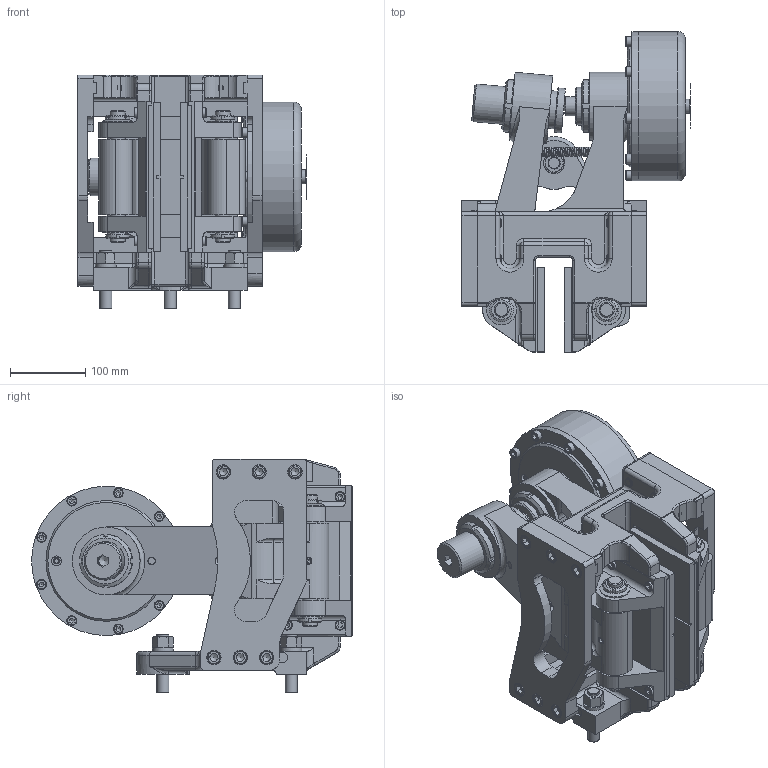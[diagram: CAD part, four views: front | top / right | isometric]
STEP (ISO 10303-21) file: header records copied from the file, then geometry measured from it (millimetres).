
FILE_DESCRIPTION(/* description */ ('','CAx-IF Rec.Pracs.---Representation and Presentation of Product Manufacturing Information (PMI)---4.0---2014-10-13'),/* implementation_level */ '2;1');
FILE_NAME(/* name */ 'X:\INVENTOR\DISEGNI\19_Pinze\STEP x Sito\PNEUM-POSITIVE\19_16_064_04 PPT064_25,4.stp',/* time_stamp */ '2018-10-25T10:29:25+02:00',/* author */ ('stefano'),/* organization */ (''),/* preprocessor_version */ 'ST-DEVELOPER v17',/* originating_system */ 'Autodesk Inventor 2018',/* authorisation */ '');
FILE_SCHEMA (('AP242_MANAGED_MODEL_BASED_3D_ENGINEERING_MIM_LF { 1 0 10303 442 1 1 4 }'));
Length unit declared in the file: millimetre
Products named in the file (1): 19_16_064_04 PPT064_25,4_Substitute_3
Bounding box: 302.1 x 425 x 310 mm (x, y, z)
Volume: 9355527.3 mm3; surface area: 1084239.6 mm2
Topology: 1 solids, 1 shells, 1697 faces, 4599 edges, 2967 vertices
Faces by surface type: plane 837, cylinder 476, cone 170, torus 163, bspline 31, sphere 20
Full cylindrical faces by diameter (mm): 1.8 x2, 3 x1, 4.134 x2, 5.188 x6, 6 x1, 6.3 x6, 7.4 x1, 7.5 x2, 8 x9, 8.376 x1, 8.5 x8, 8.917 x2, 9 x1, 9.188 x1, 10 x2, 10.106 x2, 10.5 x4, 12 x14, 12.5 x12, 13 x19, 13.5 x8, 14 x1, 16 x6, 16.5 x4, 17 x3, 18 x13, 18.631 x1, 19 x12, 20 x13, 22 x6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
Entity records: 62643 total; most frequent: CARTESIAN_POINT 18411, DIRECTION 9109, ORIENTED_EDGE 9068, EDGE_CURVE 4534, AXIS2_PLACEMENT_3D 3489, VERTEX_POINT 2967, LINE 2131, VECTOR 2131
